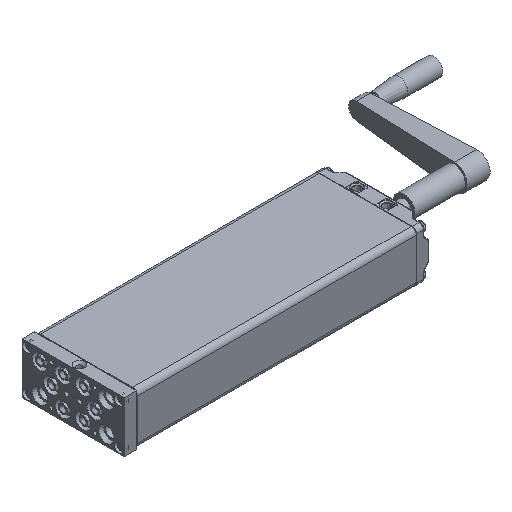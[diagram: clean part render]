
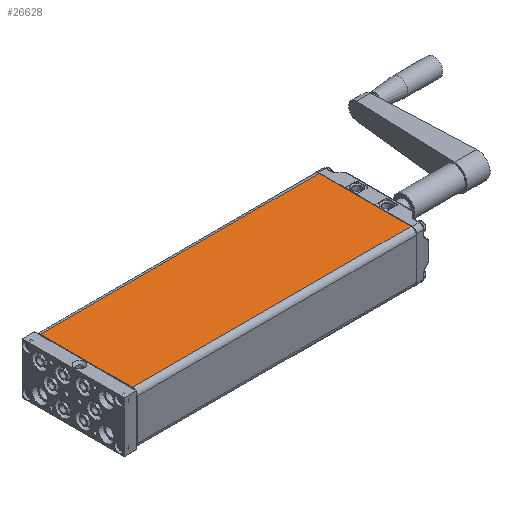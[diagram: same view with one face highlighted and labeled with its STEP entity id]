
A CAD part, isometric view. The second image highlights one B-rep face of the part: STEP entity #26628.
In plain terms, the highlighted planar face has unit normal (0, 0, 1).
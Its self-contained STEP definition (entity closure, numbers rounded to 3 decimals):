
#2493=LINE('',#63534,#3560);
#2494=LINE('',#63537,#3561);
#2495=LINE('',#63539,#3562);
#2496=LINE('',#63541,#3563);
#3560=VECTOR('',#32888,1000.);
#3561=VECTOR('',#32889,1000.);
#3562=VECTOR('',#32890,1000.);
#3563=VECTOR('',#32891,1000.);
#3994=PLANE('',#28456);
#8858=ORIENTED_EDGE('',*,*,#11908,.T.);
#8859=ORIENTED_EDGE('',*,*,#11909,.T.);
#8860=ORIENTED_EDGE('',*,*,#11910,.T.);
#8861=ORIENTED_EDGE('',*,*,#11911,.T.);
#11908=EDGE_CURVE('',#13693,#13694,#2493,.F.);
#11909=EDGE_CURVE('',#13694,#13695,#2494,.T.);
#11910=EDGE_CURVE('',#13695,#13696,#2495,.T.);
#11911=EDGE_CURVE('',#13696,#13693,#2496,.F.);
#13693=VERTEX_POINT('',#63535);
#13694=VERTEX_POINT('',#63536);
#13695=VERTEX_POINT('',#63538);
#13696=VERTEX_POINT('',#63540);
#15917=EDGE_LOOP('',(#8858,#8859,#8860,#8861));
#17458=FACE_BOUND('',#15917,.T.);
#26628=ADVANCED_FACE('',(#17458),#3994,.T.);
#28456=AXIS2_PLACEMENT_3D('',#63533,#32886,#32887);
#32886=DIRECTION('',(0.,0.,1.));
#32887=DIRECTION('',(1.,0.,0.));
#32888=DIRECTION('',(0.,-1.,0.));
#32889=DIRECTION('',(-1.,0.,0.));
#32890=DIRECTION('',(0.,-1.,0.));
#32891=DIRECTION('',(-1.,0.,0.));
#63533=CARTESIAN_POINT('',(60.,328.5,30.));
#63534=CARTESIAN_POINT('',(54.,328.5,30.));
#63535=CARTESIAN_POINT('',(54.,0.5,30.));
#63536=CARTESIAN_POINT('',(54.,328.,30.));
#63537=CARTESIAN_POINT('',(60.,328.,30.));
#63538=CARTESIAN_POINT('',(-54.,328.,30.));
#63539=CARTESIAN_POINT('',(-54.,328.5,30.));
#63540=CARTESIAN_POINT('',(-54.,0.5,30.));
#63541=CARTESIAN_POINT('',(54.,0.5,30.));
